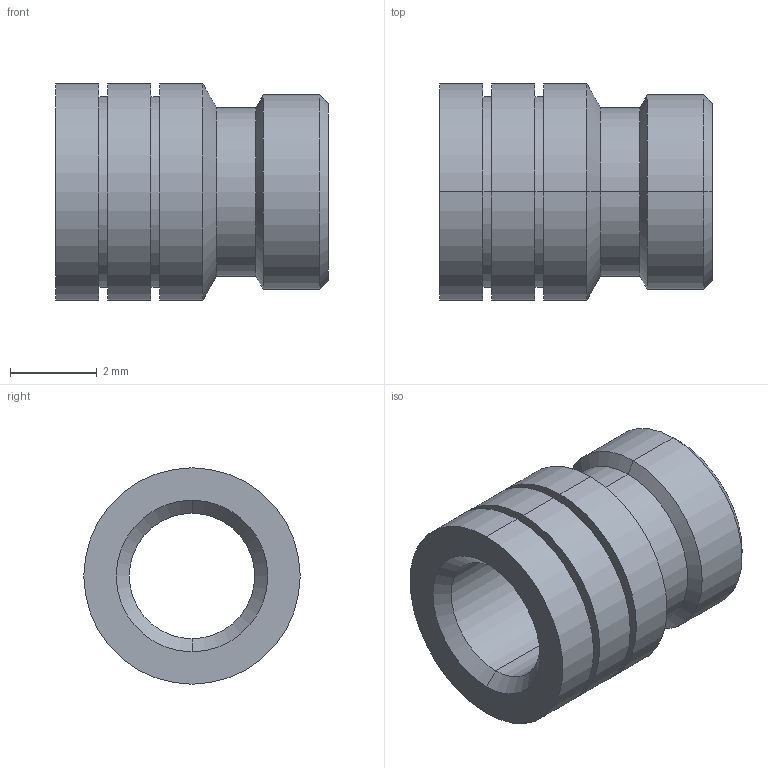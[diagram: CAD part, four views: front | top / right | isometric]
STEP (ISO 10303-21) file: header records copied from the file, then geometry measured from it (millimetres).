
FILE_DESCRIPTION (( 'STEP AP203' ), '1' );
FILE_NAME ('FSUK-MU-M03.5-S.STEP', '2021-04-15T13:14:09', ( '' ), ( '' ), 'SwSTEP 2.0', 'SolidWorks 2021', '' );
FILE_SCHEMA (( 'CONFIG_CONTROL_DESIGN' ));
Length unit declared in the file: millimetre
Products named in the file (1): FSUK-MU-M03.5-S
Bounding box: 6.3 x 5 x 5 mm (x, y, z)
Volume: 64.3 mm3; surface area: 191.2 mm2
Topology: 1 solids, 1 shells, 32 faces, 64 edges, 38 vertices
Faces by surface type: cylinder 16, cone 10, plane 6
Entity records: 915 total; most frequent: DIRECTION 168, CARTESIAN_POINT 135, ORIENTED_EDGE 128, AXIS2_PLACEMENT_3D 71, EDGE_CURVE 64, CIRCLE 38, EDGE_LOOP 38, VERTEX_POINT 38
